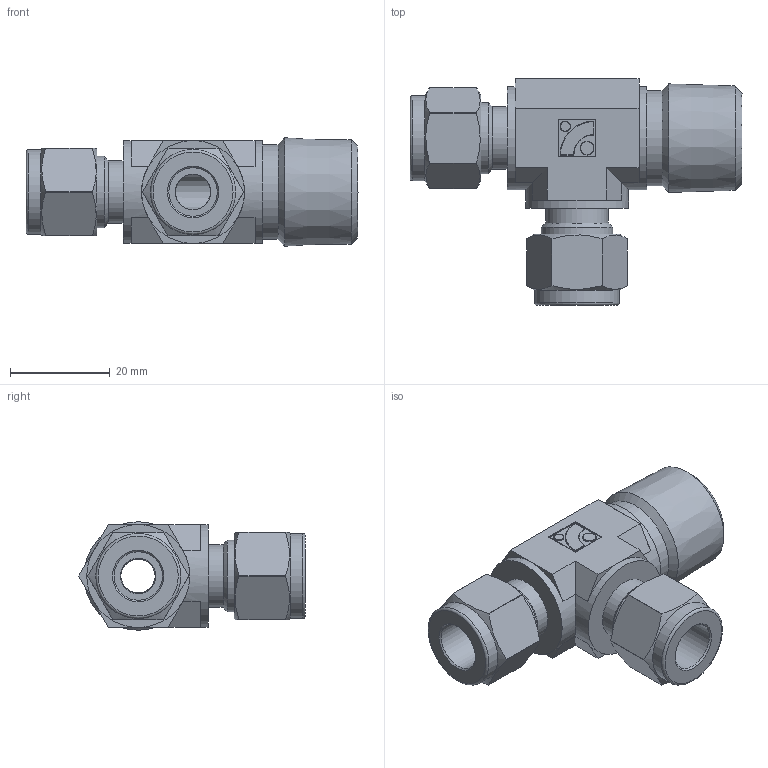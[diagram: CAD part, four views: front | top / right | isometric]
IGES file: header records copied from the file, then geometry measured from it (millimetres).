
Global section: file name: No Iges File Name specified; native system: Autodesk Inventor 2012; preprocessor: AutoDesk Inventor Iges Exporter R2012; author: 硅己绕,, ; organization: 11; date: 20150815.154829; units: millimetre
Bounding box: 66.41 x 45.3 x 21.71 mm (x, y, z)
Volume: 21919.2 mm3; surface area: 9171 mm2
Topology: 1 solids, 1 shells, 136 faces, 311 edges, 187 vertices
Faces by surface type: plane 60, cylinder 35, revolution 22, cone 9, torus 6, sphere 4
Full cylindrical faces by diameter (mm): 2.006 x1, 2.675 x1, 12.5 x2, 14.28 x2, 17 x2, 18.996 x1, 20.6 x3
